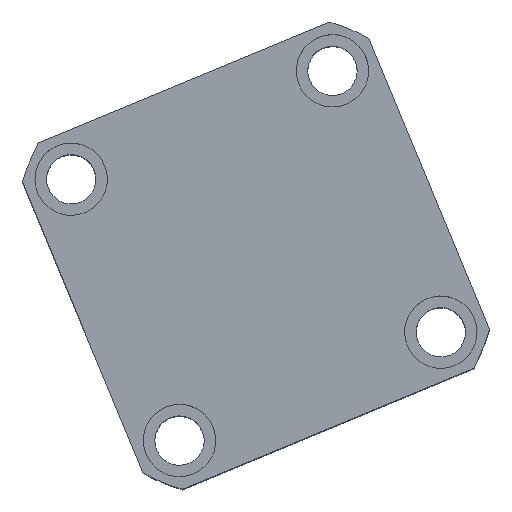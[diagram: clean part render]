
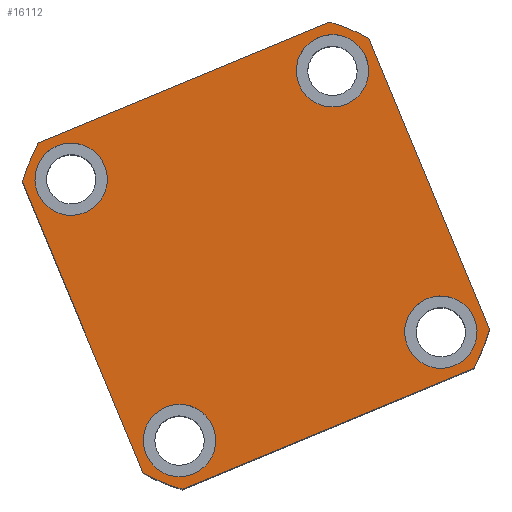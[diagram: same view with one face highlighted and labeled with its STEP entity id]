
A CAD part, top view. The second image highlights one B-rep face of the part: STEP entity #16112.
In plain terms, the highlighted planar face has unit normal (0, 0, 1) as drawn and (0, 0, -1) by its records, which use the part's own axes.
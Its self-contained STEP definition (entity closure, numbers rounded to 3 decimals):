
#41 = VERTEX_POINT ( 'NONE', #4957 ) ;
#84 = EDGE_LOOP ( 'NONE', ( #9457, #4751, #7479, #11602, #5286, #8892, #20298, #2042 ) ) ;
#183 = AXIS2_PLACEMENT_3D ( 'NONE', #11143, #1665, #12758 ) ;
#303 = DIRECTION ( 'NONE',  ( 1., 0., 0. ) ) ;
#443 = DIRECTION ( 'NONE',  ( -1., 0., 0. ) ) ;
#775 = DIRECTION ( 'NONE',  ( -1., 0., 0. ) ) ;
#925 = ORIENTED_EDGE ( 'NONE', *, *, #9739, .F. ) ;
#959 = DIRECTION ( 'NONE',  ( 0., -1., 0. ) ) ;
#1665 = DIRECTION ( 'NONE',  ( 0., 0., 1. ) ) ;
#1852 = CIRCLE ( 'NONE', #3630, 11. ) ;
#1955 = DIRECTION ( 'NONE',  ( 0., 0., -1. ) ) ;
#2042 = ORIENTED_EDGE ( 'NONE', *, *, #10411, .F. ) ;
#2350 = VERTEX_POINT ( 'NONE', #10332 ) ;
#2371 = LINE ( 'NONE', #13635, #6061 ) ;
#2436 = DIRECTION ( 'NONE',  ( 0., 1., 0. ) ) ;
#2667 = VERTEX_POINT ( 'NONE', #5485 ) ;
#2863 = CARTESIAN_POINT ( 'NONE',  ( -43., -43., 0. ) ) ;
#3437 = LINE ( 'NONE', #8189, #11377 ) ;
#3489 = DIRECTION ( 'NONE',  ( 0., 0., -1. ) ) ;
#3630 = AXIS2_PLACEMENT_3D ( 'NONE', #19681, #10256, #775 ) ;
#3804 = EDGE_CURVE ( 'NONE', #2350, #41, #14523, .T. ) ;
#3819 = EDGE_CURVE ( 'NONE', #4039, #15655, #2371, .T. ) ;
#4039 = VERTEX_POINT ( 'NONE', #5856 ) ;
#4122 = DIRECTION ( 'NONE',  ( 0., 0., 1. ) ) ;
#4136 = CARTESIAN_POINT ( 'NONE',  ( 43., 43., 0. ) ) ;
#4251 = DIRECTION ( 'NONE',  ( 0., 0., -1. ) ) ;
#4457 = DIRECTION ( 'NONE',  ( -1., 0., 0. ) ) ;
#4524 = VERTEX_POINT ( 'NONE', #16854 ) ;
#4693 = CARTESIAN_POINT ( 'NONE',  ( -54., -43., 0. ) ) ;
#4751 = ORIENTED_EDGE ( 'NONE', *, *, #12354, .F. ) ;
#4957 = CARTESIAN_POINT ( 'NONE',  ( 54., 43., 0. ) ) ;
#5025 = ORIENTED_EDGE ( 'NONE', *, *, #14675, .F. ) ;
#5254 = AXIS2_PLACEMENT_3D ( 'NONE', #13753, #4251, #15325 ) ;
#5286 = ORIENTED_EDGE ( 'NONE', *, *, #19070, .F. ) ;
#5316 = CIRCLE ( 'NONE', #15612, 74.5 ) ;
#5385 = CARTESIAN_POINT ( 'NONE',  ( 0., 0., 0. ) ) ;
#5485 = CARTESIAN_POINT ( 'NONE',  ( 57., 47.971, 0. ) ) ;
#5594 = EDGE_LOOP ( 'NONE', ( #925, #20329 ) ) ;
#5700 = CARTESIAN_POINT ( 'NONE',  ( 0., 0., 0. ) ) ;
#5720 = DIRECTION ( 'NONE',  ( -1., 0., 0. ) ) ;
#5856 = CARTESIAN_POINT ( 'NONE',  ( -57., 47.971, 0. ) ) ;
#6061 = VECTOR ( 'NONE', #959, 1000. ) ;
#6409 = FACE_BOUND ( 'NONE', #5594, .T. ) ;
#6510 = CARTESIAN_POINT ( 'NONE',  ( 57., -47.971, 0. ) ) ;
#6543 = CARTESIAN_POINT ( 'NONE',  ( 43., 43., 0. ) ) ;
#6569 = VERTEX_POINT ( 'NONE', #9250 ) ;
#6664 = VERTEX_POINT ( 'NONE', #4693 ) ;
#6779 = CIRCLE ( 'NONE', #5254, 11. ) ;
#6921 = FACE_BOUND ( 'NONE', #8024, .T. ) ;
#6970 = DIRECTION ( 'NONE',  ( 1., 0., 0. ) ) ;
#7012 = ORIENTED_EDGE ( 'NONE', *, *, #18220, .F. ) ;
#7035 = LINE ( 'NONE', #16062, #15452 ) ;
#7155 = VERTEX_POINT ( 'NONE', #14947 ) ;
#7190 = DIRECTION ( 'NONE',  ( 0., 0., 1. ) ) ;
#7298 = DIRECTION ( 'NONE',  ( 1., 0., 0. ) ) ;
#7479 = ORIENTED_EDGE ( 'NONE', *, *, #7830, .F. ) ;
#7625 = VERTEX_POINT ( 'NONE', #14247 ) ;
#7752 = EDGE_CURVE ( 'NONE', #6569, #18157, #1852, .T. ) ;
#7830 = EDGE_CURVE ( 'NONE', #8258, #16604, #17668, .T. ) ;
#7872 = AXIS2_PLACEMENT_3D ( 'NONE', #19358, #9919, #443 ) ;
#7894 = EDGE_LOOP ( 'NONE', ( #18558, #5025 ) ) ;
#8024 = EDGE_LOOP ( 'NONE', ( #20104, #20457 ) ) ;
#8154 = DIRECTION ( 'NONE',  ( -1., 0., 0. ) ) ;
#8189 = CARTESIAN_POINT ( 'NONE',  ( -57., -57., 0. ) ) ;
#8258 = VERTEX_POINT ( 'NONE', #17992 ) ;
#8393 = CARTESIAN_POINT ( 'NONE',  ( -54., 43., 0. ) ) ;
#8892 = ORIENTED_EDGE ( 'NONE', *, *, #3819, .F. ) ;
#9250 = CARTESIAN_POINT ( 'NONE',  ( 32., -43., 0. ) ) ;
#9402 = EDGE_CURVE ( 'NONE', #18157, #6569, #13001, .T. ) ;
#9414 = CIRCLE ( 'NONE', #17580, 11. ) ;
#9457 = ORIENTED_EDGE ( 'NONE', *, *, #13250, .F. ) ;
#9739 = EDGE_CURVE ( 'NONE', #6664, #16635, #6779, .T. ) ;
#9774 = CARTESIAN_POINT ( 'NONE',  ( -32., -43., 0. ) ) ;
#9879 = AXIS2_PLACEMENT_3D ( 'NONE', #13000, #3489, #14597 ) ;
#9919 = DIRECTION ( 'NONE',  ( 0., 0., -1. ) ) ;
#10209 = ORIENTED_EDGE ( 'NONE', *, *, #16694, .F. ) ;
#10256 = DIRECTION ( 'NONE',  ( 0., 0., -1. ) ) ;
#10332 = CARTESIAN_POINT ( 'NONE',  ( 32., 43., 0. ) ) ;
#10411 = EDGE_CURVE ( 'NONE', #4524, #15932, #7035, .T. ) ;
#10628 = FACE_BOUND ( 'NONE', #15003, .T. ) ;
#10829 = CIRCLE ( 'NONE', #14550, 74.5 ) ;
#10954 = LINE ( 'NONE', #13530, #15174 ) ;
#11143 = CARTESIAN_POINT ( 'NONE',  ( 0., 0., 0. ) ) ;
#11377 = VECTOR ( 'NONE', #303, 1000. ) ;
#11443 = CARTESIAN_POINT ( 'NONE',  ( -43., 43., 0. ) ) ;
#11602 = ORIENTED_EDGE ( 'NONE', *, *, #16614, .F. ) ;
#11642 = EDGE_CURVE ( 'NONE', #16635, #6664, #19593, .T. ) ;
#12021 = PLANE ( 'NONE',  #18303 ) ;
#12109 = CIRCLE ( 'NONE', #183, 74.5 ) ;
#12354 = EDGE_CURVE ( 'NONE', #16604, #2667, #10954, .T. ) ;
#12658 = AXIS2_PLACEMENT_3D ( 'NONE', #11443, #1955, #13054 ) ;
#12758 = DIRECTION ( 'NONE',  ( 1., 0., 0. ) ) ;
#12965 = AXIS2_PLACEMENT_3D ( 'NONE', #2863, #13956, #4457 ) ;
#13000 = CARTESIAN_POINT ( 'NONE',  ( 43., -43., 0. ) ) ;
#13001 = CIRCLE ( 'NONE', #9879, 11. ) ;
#13054 = DIRECTION ( 'NONE',  ( -1., 0., 0. ) ) ;
#13206 = AXIS2_PLACEMENT_3D ( 'NONE', #16656, #7190, #18235 ) ;
#13250 = EDGE_CURVE ( 'NONE', #2667, #4524, #5316, .T. ) ;
#13530 = CARTESIAN_POINT ( 'NONE',  ( 57., 57., 0. ) ) ;
#13618 = CARTESIAN_POINT ( 'NONE',  ( 0., 0., 0. ) ) ;
#13635 = CARTESIAN_POINT ( 'NONE',  ( -57., 57., 0. ) ) ;
#13753 = CARTESIAN_POINT ( 'NONE',  ( -43., -43., 0. ) ) ;
#13820 = VERTEX_POINT ( 'NONE', #8393 ) ;
#13956 = DIRECTION ( 'NONE',  ( 0., 0., -1. ) ) ;
#14247 = CARTESIAN_POINT ( 'NONE',  ( -32., 43., 0. ) ) ;
#14523 = CIRCLE ( 'NONE', #19857, 11. ) ;
#14550 = AXIS2_PLACEMENT_3D ( 'NONE', #5385, #16441, #6970 ) ;
#14597 = DIRECTION ( 'NONE',  ( -1., 0., 0. ) ) ;
#14675 = EDGE_CURVE ( 'NONE', #41, #2350, #9414, .T. ) ;
#14869 = FACE_OUTER_BOUND ( 'NONE', #84, .T. ) ;
#14947 = CARTESIAN_POINT ( 'NONE',  ( -47.971, -57., 0. ) ) ;
#15003 = EDGE_LOOP ( 'NONE', ( #7012, #10209 ) ) ;
#15174 = VECTOR ( 'NONE', #2436, 1000. ) ;
#15203 = DIRECTION ( 'NONE',  ( 1., 0., 0. ) ) ;
#15220 = DIRECTION ( 'NONE',  ( 0., 0., -1. ) ) ;
#15325 = DIRECTION ( 'NONE',  ( -1., 0., 0. ) ) ;
#15452 = VECTOR ( 'NONE', #16264, 1000. ) ;
#15580 = CIRCLE ( 'NONE', #12658, 11. ) ;
#15612 = AXIS2_PLACEMENT_3D ( 'NONE', #5700, #16750, #7298 ) ;
#15655 = VERTEX_POINT ( 'NONE', #16991 ) ;
#15932 = VERTEX_POINT ( 'NONE', #19249 ) ;
#16062 = CARTESIAN_POINT ( 'NONE',  ( -57., 57., 0. ) ) ;
#16074 = CARTESIAN_POINT ( 'NONE',  ( 54., -43., 0. ) ) ;
#16112 = ADVANCED_FACE ( 'NONE', ( #6409, #6921, #19013, #10628, #14869 ), #12021, .F. ) ;
#16264 = DIRECTION ( 'NONE',  ( -1., 0., 0. ) ) ;
#16441 = DIRECTION ( 'NONE',  ( 0., 0., 1. ) ) ;
#16604 = VERTEX_POINT ( 'NONE', #6510 ) ;
#16614 = EDGE_CURVE ( 'NONE', #7155, #8258, #3437, .T. ) ;
#16635 = VERTEX_POINT ( 'NONE', #9774 ) ;
#16656 = CARTESIAN_POINT ( 'NONE',  ( 0., 0., 0. ) ) ;
#16694 = EDGE_CURVE ( 'NONE', #7625, #13820, #15580, .T. ) ;
#16750 = DIRECTION ( 'NONE',  ( 0., 0., 1. ) ) ;
#16854 = CARTESIAN_POINT ( 'NONE',  ( 47.971, 57., 0. ) ) ;
#16991 = CARTESIAN_POINT ( 'NONE',  ( -57., -47.971, 0. ) ) ;
#17227 = EDGE_CURVE ( 'NONE', #15932, #4039, #12109, .T. ) ;
#17580 = AXIS2_PLACEMENT_3D ( 'NONE', #6543, #17601, #8154 ) ;
#17601 = DIRECTION ( 'NONE',  ( 0., 0., -1. ) ) ;
#17668 = CIRCLE ( 'NONE', #13206, 74.5 ) ;
#17744 = CIRCLE ( 'NONE', #7872, 11. ) ;
#17992 = CARTESIAN_POINT ( 'NONE',  ( 47.971, -57., 0. ) ) ;
#18157 = VERTEX_POINT ( 'NONE', #16074 ) ;
#18220 = EDGE_CURVE ( 'NONE', #13820, #7625, #17744, .T. ) ;
#18235 = DIRECTION ( 'NONE',  ( 1., 0., 0. ) ) ;
#18303 = AXIS2_PLACEMENT_3D ( 'NONE', #13618, #4122, #15203 ) ;
#18558 = ORIENTED_EDGE ( 'NONE', *, *, #3804, .F. ) ;
#19013 = FACE_BOUND ( 'NONE', #7894, .T. ) ;
#19070 = EDGE_CURVE ( 'NONE', #15655, #7155, #10829, .T. ) ;
#19249 = CARTESIAN_POINT ( 'NONE',  ( -47.971, 57., 0. ) ) ;
#19358 = CARTESIAN_POINT ( 'NONE',  ( -43., 43., 0. ) ) ;
#19593 = CIRCLE ( 'NONE', #12965, 11. ) ;
#19681 = CARTESIAN_POINT ( 'NONE',  ( 43., -43., 0. ) ) ;
#19857 = AXIS2_PLACEMENT_3D ( 'NONE', #4136, #15220, #5720 ) ;
#20104 = ORIENTED_EDGE ( 'NONE', *, *, #7752, .F. ) ;
#20298 = ORIENTED_EDGE ( 'NONE', *, *, #17227, .F. ) ;
#20329 = ORIENTED_EDGE ( 'NONE', *, *, #11642, .F. ) ;
#20457 = ORIENTED_EDGE ( 'NONE', *, *, #9402, .F. ) ;
